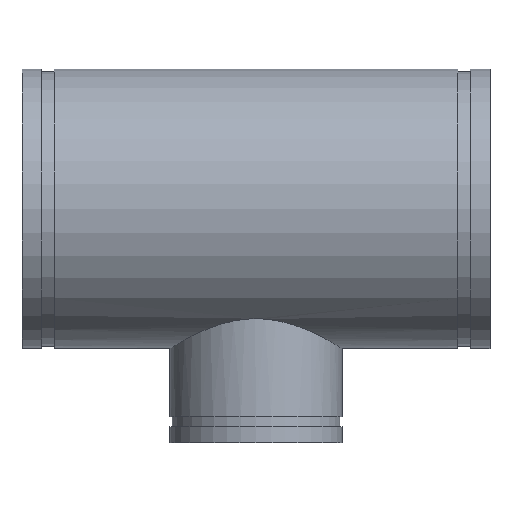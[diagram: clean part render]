
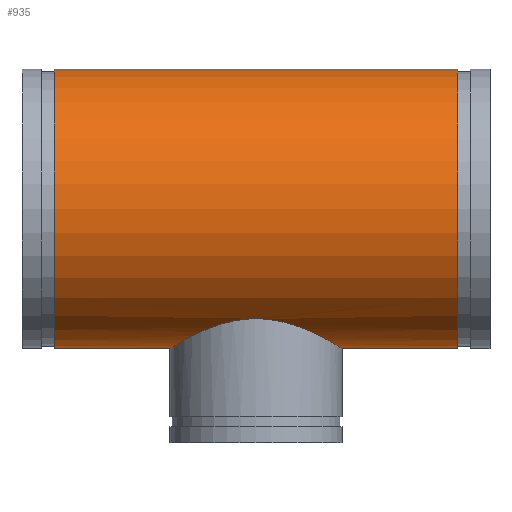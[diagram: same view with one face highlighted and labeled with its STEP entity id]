
A CAD part, top view. The second image highlights one B-rep face of the part: STEP entity #935.
In plain terms, the highlighted cylindrical face has radius 136.525 mm (diameter 273.05 mm), a full revolution.
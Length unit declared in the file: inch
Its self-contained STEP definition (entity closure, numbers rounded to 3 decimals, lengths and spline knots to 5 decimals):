
#61=FACE_BOUND('',#222,.T.);
#67=B_SPLINE_CURVE_WITH_KNOTS('',3,(#1807,#1808,#1809,#1810,#1811,#1812,
#1813,#1814,#1815,#1816,#1817,#1818,#1819,#1820,#1821,#1822,#1823,#1824),
 .UNSPECIFIED.,.F.,.F.,(4,2,2,2,2,2,2,2,4),(0.,1.64439,3.28878,
4.93317,6.57757,8.20984,9.84212,11.4744,
13.10668),.UNSPECIFIED.);
#68=B_SPLINE_CURVE_WITH_KNOTS('',3,(#1825,#1826,#1827,#1828,#1829,#1830,
#1831,#1832,#1833,#1834,#1835,#1836,#1837,#1838,#1839,#1840,#1841,#1842,
#1843,#1844,#1845,#1846,#1847,#1848,#1849,#1850,#1851,#1852,#1853,#1854,
#1855,#1856,#1857,#1858,#1859,#1860,#1861,#1862,#1863,#1864,#1865,#1866,
#1867,#1868,#1869,#1870,#1871,#1872,#1873,#1874),.UNSPECIFIED.,.F.,.F.,
(4,2,2,2,2,2,2,2,2,2,2,2,2,2,2,2,2,2,2,2,2,2,2,2,4),(13.10668,14.73896,
16.37124,18.00352,19.6358,21.28019,22.92458,
24.56897,26.21336,27.85775,29.50214,31.14654,
32.79093,34.42321,36.05548,37.68776,39.32004,
40.95232,42.5846,44.21688,45.84916,47.49355,
49.13794,50.78233,52.42672),.UNSPECIFIED.);
#81=CYLINDRICAL_SURFACE('',#1104,5.375);
#103=LINE('',#1804,#125);
#125=VECTOR('',#1432,5.375);
#171=FACE_OUTER_BOUND('',#221,.T.);
#221=EDGE_LOOP('',(#814,#815,#816,#817));
#222=EDGE_LOOP('',(#818,#819));
#326=CIRCLE('',#1087,5.375);
#337=CIRCLE('',#1103,5.375);
#424=VERTEX_POINT('',#1772);
#435=VERTEX_POINT('',#1801);
#436=VERTEX_POINT('',#1805);
#437=VERTEX_POINT('',#1806);
#552=EDGE_CURVE('',#424,#424,#326,.T.);
#565=EDGE_CURVE('',#435,#435,#337,.T.);
#566=EDGE_CURVE('',#435,#424,#103,.T.);
#567=EDGE_CURVE('',#436,#437,#67,.T.);
#568=EDGE_CURVE('',#437,#436,#68,.T.);
#814=ORIENTED_EDGE('',*,*,#565,.T.);
#815=ORIENTED_EDGE('',*,*,#566,.T.);
#816=ORIENTED_EDGE('',*,*,#552,.T.);
#817=ORIENTED_EDGE('',*,*,#566,.F.);
#818=ORIENTED_EDGE('',*,*,#567,.T.);
#819=ORIENTED_EDGE('',*,*,#568,.T.);
#935=ADVANCED_FACE('',(#171,#61),#81,.T.);
#1087=AXIS2_PLACEMENT_3D('',#1773,#1394,#1395);
#1103=AXIS2_PLACEMENT_3D('',#1802,#1428,#1429);
#1104=AXIS2_PLACEMENT_3D('',#1803,#1430,#1431);
#1394=DIRECTION('center_axis',(-1.,0.,0.));
#1395=DIRECTION('ref_axis',(0.,-1.,0.));
#1428=DIRECTION('center_axis',(1.,0.,0.));
#1429=DIRECTION('ref_axis',(0.,-1.,0.));
#1430=DIRECTION('center_axis',(-1.,0.,0.));
#1431=DIRECTION('ref_axis',(0.,-1.,0.));
#1432=DIRECTION('',(1.,0.,0.));
#1772=CARTESIAN_POINT('',(7.75,5.375,0.));
#1773=CARTESIAN_POINT('Origin',(7.75,0.,0.));
#1801=CARTESIAN_POINT('',(-7.75,5.375,0.));
#1802=CARTESIAN_POINT('Origin',(-7.75,0.,0.));
#1803=CARTESIAN_POINT('Origin',(9.,0.,0.));
#1804=CARTESIAN_POINT('',(9.,5.375,0.));
#1805=CARTESIAN_POINT('',(0.,-4.23296,-3.3125));
#1806=CARTESIAN_POINT('',(-3.3125,-5.375,0.));
#1807=CARTESIAN_POINT('Ctrl Pts',(0.,-4.23296,
-3.3125));
#1808=CARTESIAN_POINT('Ctrl Pts',(-0.2158,-4.23296,
-3.3125));
#1809=CARTESIAN_POINT('Ctrl Pts',(-0.43594,-4.24997,
-3.2911));
#1810=CARTESIAN_POINT('Ctrl Pts',(-0.8689,-4.31592,
-3.20413));
#1811=CARTESIAN_POINT('Ctrl Pts',(-1.08175,-4.3647,-3.13859));
#1812=CARTESIAN_POINT('Ctrl Pts',(-1.48684,-4.48231,-2.96821));
#1813=CARTESIAN_POINT('Ctrl Pts',(-1.67951,-4.55107,-2.86321));
#1814=CARTESIAN_POINT('Ctrl Pts',(-2.03505,-4.69392,-2.62247));
#1815=CARTESIAN_POINT('Ctrl Pts',(-2.19792,-4.7679,-2.48666));
#1816=CARTESIAN_POINT('Ctrl Pts',(-2.48559,-4.90718,-2.19899));
#1817=CARTESIAN_POINT('Ctrl Pts',(-2.62122,-4.9778,-2.03667));
#1818=CARTESIAN_POINT('Ctrl Pts',(-2.86235,-5.10889,-1.681));
#1819=CARTESIAN_POINT('Ctrl Pts',(-2.96787,-5.16928,-1.48763));
#1820=CARTESIAN_POINT('Ctrl Pts',(-3.13891,-5.26934,-1.08098));
#1821=CARTESIAN_POINT('Ctrl Pts',(-3.20458,-5.30906,-0.86729));
#1822=CARTESIAN_POINT('Ctrl Pts',(-3.29139,-5.3619,-0.4339));
#1823=CARTESIAN_POINT('Ctrl Pts',(-3.3125,-5.375,-0.21421));
#1824=CARTESIAN_POINT('Ctrl Pts',(-3.3125,-5.375,0.));
#1825=CARTESIAN_POINT('Ctrl Pts',(-3.3125,-5.375,0.));
#1826=CARTESIAN_POINT('Ctrl Pts',(-3.3125,-5.375,0.21421));
#1827=CARTESIAN_POINT('Ctrl Pts',(-3.29139,-5.3619,0.4339));
#1828=CARTESIAN_POINT('Ctrl Pts',(-3.20458,-5.30906,0.86729));
#1829=CARTESIAN_POINT('Ctrl Pts',(-3.13891,-5.26934,1.08098));
#1830=CARTESIAN_POINT('Ctrl Pts',(-2.96787,-5.16928,1.48763));
#1831=CARTESIAN_POINT('Ctrl Pts',(-2.86235,-5.10889,1.681));
#1832=CARTESIAN_POINT('Ctrl Pts',(-2.62122,-4.9778,2.03667));
#1833=CARTESIAN_POINT('Ctrl Pts',(-2.48559,-4.90718,2.19899));
#1834=CARTESIAN_POINT('Ctrl Pts',(-2.19792,-4.7679,2.48666));
#1835=CARTESIAN_POINT('Ctrl Pts',(-2.03505,-4.69392,2.62247));
#1836=CARTESIAN_POINT('Ctrl Pts',(-1.67951,-4.55107,2.86321));
#1837=CARTESIAN_POINT('Ctrl Pts',(-1.48684,-4.48231,2.96821));
#1838=CARTESIAN_POINT('Ctrl Pts',(-1.08175,-4.3647,3.13859));
#1839=CARTESIAN_POINT('Ctrl Pts',(-0.8689,-4.31592,3.20413));
#1840=CARTESIAN_POINT('Ctrl Pts',(-0.43594,-4.24997,
3.2911));
#1841=CARTESIAN_POINT('Ctrl Pts',(-0.2158,-4.23296,
3.3125));
#1842=CARTESIAN_POINT('Ctrl Pts',(0.2158,-4.23296,3.3125));
#1843=CARTESIAN_POINT('Ctrl Pts',(0.43594,-4.24997,3.2911));
#1844=CARTESIAN_POINT('Ctrl Pts',(0.8689,-4.31592,3.20413));
#1845=CARTESIAN_POINT('Ctrl Pts',(1.08175,-4.3647,3.13859));
#1846=CARTESIAN_POINT('Ctrl Pts',(1.48684,-4.48231,2.96821));
#1847=CARTESIAN_POINT('Ctrl Pts',(1.67951,-4.55107,2.86321));
#1848=CARTESIAN_POINT('Ctrl Pts',(2.03505,-4.69392,2.62247));
#1849=CARTESIAN_POINT('Ctrl Pts',(2.19792,-4.7679,2.48666));
#1850=CARTESIAN_POINT('Ctrl Pts',(2.48559,-4.90718,2.19899));
#1851=CARTESIAN_POINT('Ctrl Pts',(2.62122,-4.9778,2.03667));
#1852=CARTESIAN_POINT('Ctrl Pts',(2.86235,-5.10889,1.681));
#1853=CARTESIAN_POINT('Ctrl Pts',(2.96787,-5.16928,1.48763));
#1854=CARTESIAN_POINT('Ctrl Pts',(3.13891,-5.26934,1.08098));
#1855=CARTESIAN_POINT('Ctrl Pts',(3.20458,-5.30906,0.86729));
#1856=CARTESIAN_POINT('Ctrl Pts',(3.29139,-5.3619,0.4339));
#1857=CARTESIAN_POINT('Ctrl Pts',(3.3125,-5.375,0.21421));
#1858=CARTESIAN_POINT('Ctrl Pts',(3.3125,-5.375,-0.21421));
#1859=CARTESIAN_POINT('Ctrl Pts',(3.29139,-5.3619,-0.4339));
#1860=CARTESIAN_POINT('Ctrl Pts',(3.20458,-5.30906,-0.86729));
#1861=CARTESIAN_POINT('Ctrl Pts',(3.13891,-5.26934,-1.08098));
#1862=CARTESIAN_POINT('Ctrl Pts',(2.96787,-5.16928,-1.48763));
#1863=CARTESIAN_POINT('Ctrl Pts',(2.86235,-5.10889,-1.681));
#1864=CARTESIAN_POINT('Ctrl Pts',(2.62122,-4.9778,-2.03667));
#1865=CARTESIAN_POINT('Ctrl Pts',(2.48559,-4.90718,-2.19899));
#1866=CARTESIAN_POINT('Ctrl Pts',(2.19792,-4.7679,-2.48666));
#1867=CARTESIAN_POINT('Ctrl Pts',(2.03505,-4.69392,-2.62247));
#1868=CARTESIAN_POINT('Ctrl Pts',(1.67951,-4.55107,-2.86321));
#1869=CARTESIAN_POINT('Ctrl Pts',(1.48684,-4.48231,-2.96821));
#1870=CARTESIAN_POINT('Ctrl Pts',(1.08175,-4.3647,-3.13859));
#1871=CARTESIAN_POINT('Ctrl Pts',(0.8689,-4.31592,-3.20413));
#1872=CARTESIAN_POINT('Ctrl Pts',(0.43594,-4.24997,-3.2911));
#1873=CARTESIAN_POINT('Ctrl Pts',(0.2158,-4.23296,-3.3125));
#1874=CARTESIAN_POINT('Ctrl Pts',(0.,-4.23296,-3.3125));
